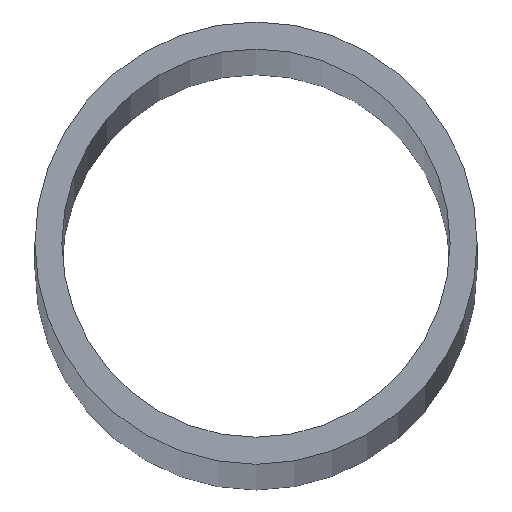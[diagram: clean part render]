
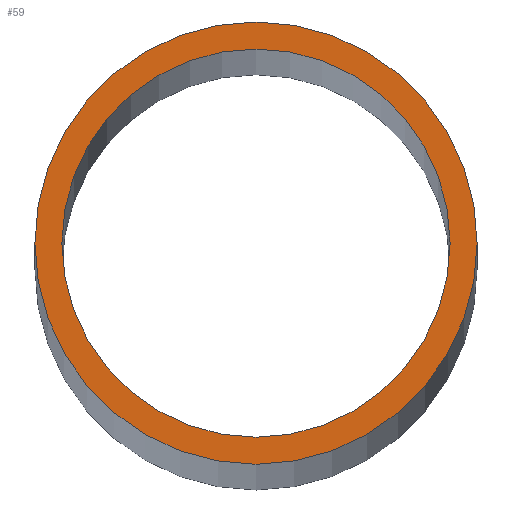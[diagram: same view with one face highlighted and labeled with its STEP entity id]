
A CAD part, top view. The second image highlights one B-rep face of the part: STEP entity #59.
In plain terms, the highlighted planar face has unit normal (0, 0, 1).
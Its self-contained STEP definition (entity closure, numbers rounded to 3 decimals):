
#12=PLANE($,#70);
#16=FACE_BOUND($,#26,.T.);
#17=FACE_BOUND($,#27,.T.);
#26=EDGE_LOOP($,(#46));
#27=EDGE_LOOP($,(#47));
#30=CIRCLE($,#65,39.5);
#32=CIRCLE($,#68,45.);
#34=VERTEX_POINT($,#92);
#36=VERTEX_POINT($,#97);
#38=EDGE_CURVE($,#34,#34,#30,.T.);
#40=EDGE_CURVE($,#36,#36,#32,.T.);
#46=ORIENTED_EDGE($,*,*,#38,.T.);
#47=ORIENTED_EDGE($,*,*,#40,.F.);
#59=ADVANCED_FACE($,(#16,#17),#12,.F.);
#65=AXIS2_PLACEMENT_3D($,#93,#76,#77);
#68=AXIS2_PLACEMENT_3D($,#98,#82,#83);
#70=AXIS2_PLACEMENT_3D($,#101,#86,#87);
#76=DIRECTION('center_axis',(0.,0.,-1.));
#77=DIRECTION('ref_axis',(-1.,0.,0.));
#82=DIRECTION('center_axis',(0.,0.,-1.));
#83=DIRECTION('ref_axis',(-1.,0.,0.));
#86=DIRECTION('center_axis',(0.,0.,-1.));
#87=DIRECTION('ref_axis',(-1.,0.,0.));
#92=CARTESIAN_POINT('',(39.5,0.,3000.));
#93=CARTESIAN_POINT('Origin',(0.,0.,3000.));
#97=CARTESIAN_POINT('',(45.,0.,3000.));
#98=CARTESIAN_POINT('Origin',(0.,0.,3000.));
#101=CARTESIAN_POINT('Origin',(0.,0.,3000.));
